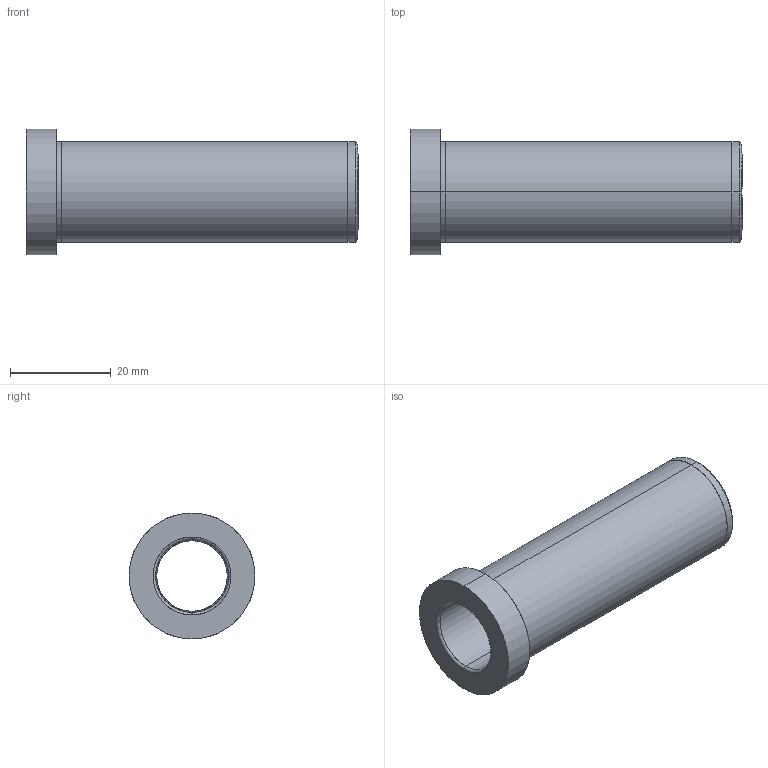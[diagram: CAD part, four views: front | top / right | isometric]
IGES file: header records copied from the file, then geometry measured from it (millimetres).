
Start section: SolidWorks IGES file using analytic representation for surfaces
Global section: file name: C:\Documents and Settings\kalite-mail\Desktop\IGS\D20\D20 - 14x66.IGS; native system: SolidWorks 2008; preprocessor: SolidWorks 2008; author: kalite-mail; date: 080617.112417; units: millimetre
Bounding box: 66 x 25 x 25 mm (x, y, z)
Surface area: 7822.7 mm2 (no closed solid volume)
Topology: 0 solids, 0 shells, 24 faces, 456 edges, 456 vertices
Faces by surface type: revolution 14, bspline 10
